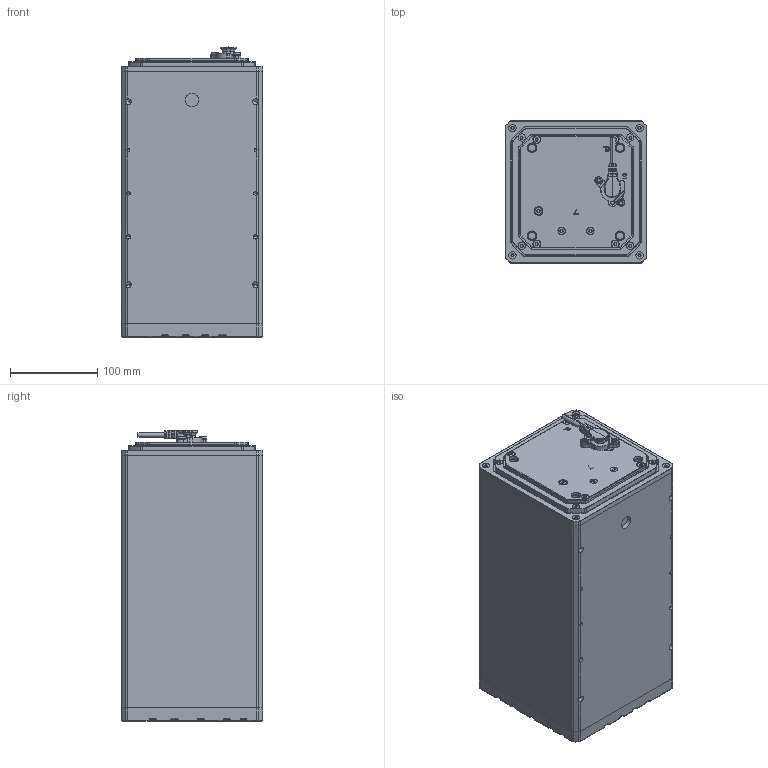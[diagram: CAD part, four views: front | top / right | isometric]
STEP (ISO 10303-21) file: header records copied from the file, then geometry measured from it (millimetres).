
FILE_DESCRIPTION((''),'2;1');
FILE_NAME('1002W9005_ASM','2020-05-14T10:22:27',('ulj'),(''),'CREO PARAMETRIC BY PTC INC, 2019344','CREO PARAMETRIC BY PTC INC, 2019344','');
FILE_SCHEMA(('AUTOMOTIVE_DESIGN { 1 0 10303 214 1 1 1 1 }'));
Products named in the file (13): 0002601; 1002W4025_ASM; 0002002; 1002W4019_ASM; 1002W4003; 1002W4004; 1002W4005; 1002W4006; 1002W4007; 1002W4008; 1002W4011; 1002W4016; 1002W9005_ASM
Assembly tree (35 placements, depth 3):
  1002W9005_ASM
    1002W4025_ASM
      0002601  x7
    1002W4019_ASM
      0002002  x6
      0002601  x12
    1002W4003
    1002W4004
    1002W4005
    1002W4006
    1002W4007
    1002W4008
    1002W4011
    1002W4016
Bounding box: 163 x 163 x 333 mm (x, y, z)
Surface area: 866500.2 mm2
Topology: 33 solids, 33 shells, 2440 faces, 6227 edges, 3878 vertices
Faces by surface type: cylinder 1051, plane 643, cone 301, torus 233, bspline 175, sphere 34, revolution 3
Entity records: 62495 total; most frequent: CARTESIAN_POINT 19426, DIRECTION 9085, ORIENTED_EDGE 8708, EDGE_CURVE 4354, AXIS2_PLACEMENT_3D 3535, VERTEX_POINT 2741, VECTOR 2012, LINE 2012
